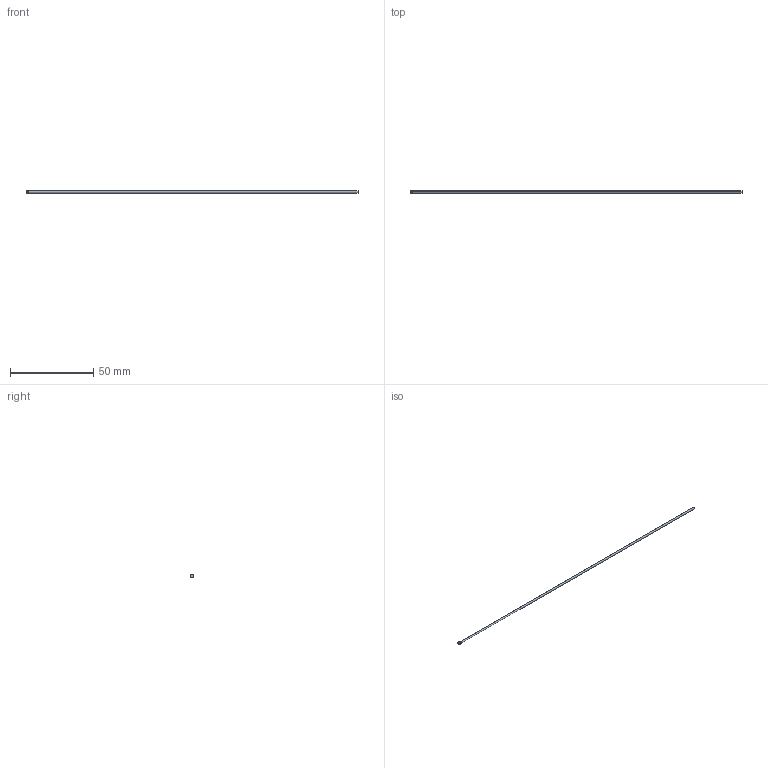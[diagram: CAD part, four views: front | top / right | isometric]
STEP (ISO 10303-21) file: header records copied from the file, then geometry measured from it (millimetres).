
FILE_DESCRIPTION (( 'STEP AP214' ), '1' );
FILE_NAME ('D-1,25x200.STEP', '2020-06-08T09:46:01', ( 'August' ), ( '' ), 'SwSTEP 2.0', 'SolidWorks 2018', '' );
FILE_SCHEMA (( 'AUTOMOTIVE_DESIGN' ));
Length unit declared in the file: millimetre
Products named in the file (1): D-1,25x200
Bounding box: 200 x 2 x 2 mm (x, y, z)
Volume: 247 mm3; surface area: 792.2 mm2
Topology: 1 solids, 1 shells, 10 faces, 18 edges, 10 vertices
Faces by surface type: cylinder 4, torus 2, cone 2, plane 2
Entity records: 280 total; most frequent: DIRECTION 52, CARTESIAN_POINT 39, ORIENTED_EDGE 36, AXIS2_PLACEMENT_3D 23, EDGE_CURVE 18, CIRCLE 12, VERTEX_POINT 10, EDGE_LOOP 10
